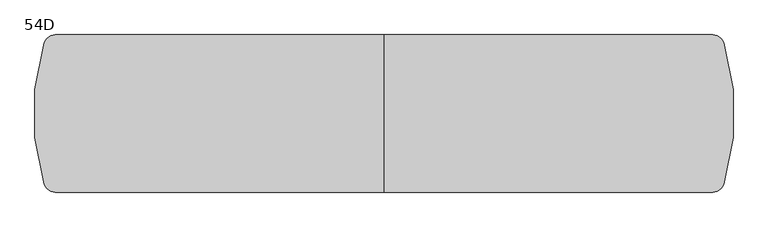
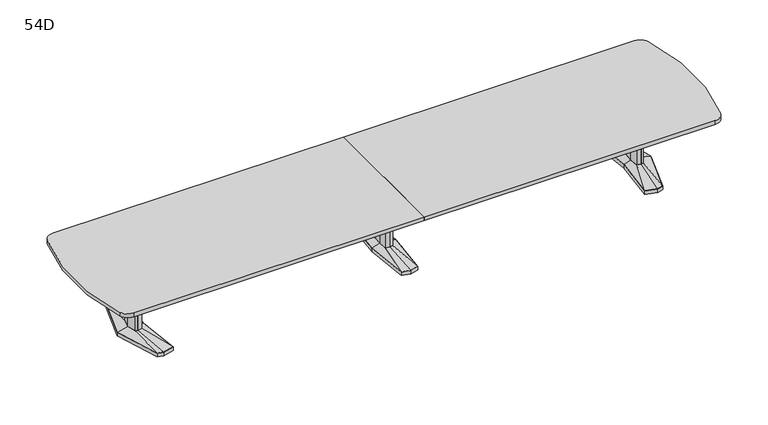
"""IFC4 building model written with IfcOpenShell, lengths in millimetres: furniture geometry, Coalesse_AM_Table_Conference_ETable2_SoftRadiused_20ft_AluminiumBase : 54D."""

from ifc_helpers import new_model, si_unit, point, frame, frame_2d, origin, place, context, project, spatial, polyline, circle_curve, trimmed, segment, composite_curve, outline, extrude, faceted_brep, source, transform, mapped, element, save
from ifc_brep_helpers import plane_surface, spline_surface, advanced_brep


def furniture_54d_68db6f83(model_context):
    return source(origin(), model_context, "Body", "SolidModel", [
        faceted_brep([(-81.2333791, -433.8053819, 38.1), (0.0, -455.556576, 38.1), (81.2333791, -433.8053819, 38.1), (119.0564774, 0.0, 38.1), (81.2333791, 433.8053819, 38.1), (0.0, 455.556576, 38.1), (-81.2333791, 433.8053819, 38.1), (-119.0564774, 0.0, 38.1), (-82.7182795, -435.0512063, 3.175), (-120.65, 0.0, 3.175), (-82.7182795, 435.0512063, 3.175), (0.0, 457.2, 3.175), (82.7182795, 435.0512063, 3.175), (120.65, 0.0, 3.175), (82.7182795, -435.0512063, 3.175), (0.0, -457.2, 3.175), (0.0, 429.2617927, 3.175), (-77.9676806, 408.3850278, 3.175), (-74.7019821, 382.9646737, 3.175), (0.0, 402.9670094, 3.175), (74.7019821, 382.9646737, 3.175), (77.9676806, 408.3850278, 3.175), (0.0, -429.2617927, 3.175), (77.9676806, -408.3850278, 3.175), (74.7019821, -382.9646737, 3.175), (0.0, -402.9670094, 3.175), (-74.7019821, -382.9646737, 3.175), (-77.9676806, -408.3850278, 3.175), (-71.8574262, 114.6326257, 3.175), (-82.5426076, 0.0, 3.175), (-71.8574262, -114.6326257, 3.175), (0.0, -133.8761372, 3.175), (71.8574262, -114.6326257, 3.175), (82.5426076, 0.0, 3.175), (71.8574262, 114.6326257, 3.175), (0.0, 133.8761372, 3.175), (0.0, 429.2617927, 0.0), (77.9676806, 408.3850278, 0.0), (74.7019821, 382.9646737, 0.0), (0.0, 402.9670094, 0.0), (-74.7019821, 382.9646737, 0.0), (-77.9676806, 408.3850278, 0.0), (0.0, -429.2617927, 0.0), (-77.9676806, -408.3850278, 0.0), (-74.7019821, -382.9646737, 0.0), (0.0, -402.9670094, 0.0), (74.7019821, -382.9646737, 0.0), (77.9676806, -408.3850278, 0.0), (-71.8574262, 114.6326257, 0.0), (0.0, 133.8761372, 0.0), (71.8574262, 114.6326257, 0.0), (82.5426076, 0.0, 0.0), (71.8574262, -114.6326257, 0.0), (0.0, -133.8761372, 0.0), (-71.8574262, -114.6326257, 0.0), (-82.5426076, 0.0, 0.0)], [[[0, 1, 2, 3, 4, 5, 6, 7]], [[8, 9, 10, 11, 12, 13, 14, 15], [16, 17, 18, 19, 20, 21], [22, 23, 24, 25, 26, 27], [28, 29, 30, 31, 32, 33, 34, 35]], [[1, 0, 8, 15]], [[2, 1, 15, 14]], [[3, 2, 14, 13]], [[4, 3, 13, 12]], [[5, 4, 12, 11]], [[6, 5, 11, 10]], [[7, 6, 10, 9]], [[0, 7, 9, 8]], [[36, 37, 38, 39, 40, 41]], [[42, 43, 44, 45, 46, 47]], [[48, 49, 50, 51, 52, 53, 54, 55]], [[36, 41, 17, 16]], [[41, 40, 18, 17]], [[40, 39, 19, 18]], [[39, 38, 20, 19]], [[38, 37, 21, 20]], [[37, 36, 16, 21]], [[42, 47, 23, 22]], [[47, 46, 24, 23]], [[46, 45, 25, 24]], [[45, 44, 26, 25]], [[44, 43, 27, 26]], [[43, 42, 22, 27]], [[48, 55, 29, 28]], [[55, 54, 30, 29]], [[54, 53, 31, 30]], [[53, 52, 32, 31]], [[52, 51, 33, 32]], [[51, 50, 34, 33]], [[50, 49, 35, 34]], [[49, 48, 28, 35]]]),
        faceted_brep([(-36.3832834, 84.6900825, 698.5), (-44.2774487, 0.0, 698.5), (-36.3832834, -84.6900825, 698.5), (0.0, -94.4335728, 698.5), (36.3832834, -84.6900825, 698.5), (44.2774487, 0.0, 698.5), (36.3832834, 84.6900825, 698.5), (0.0, 94.4335728, 698.5), (-36.3832834, 84.6900825, 63.5), (0.0, 94.4335728, 63.5), (36.3832834, 84.6900825, 63.5), (44.2774487, 0.0, 63.5), (36.3832834, -84.6900825, 63.5), (0.0, -94.4335728, 63.5), (-36.3832834, -84.6900825, 63.5), (-44.2774487, 0.0, 63.5)], [[[0, 1, 2, 3, 4, 5, 6, 7]], [[8, 9, 10, 11, 12, 13, 14, 15]], [[1, 0, 8, 15]], [[2, 1, 15, 14]], [[3, 2, 14, 13]], [[4, 3, 13, 12]], [[5, 4, 12, 11]], [[6, 5, 11, 10]], [[7, 6, 10, 9]], [[0, 7, 9, 8]]]),
        advanced_brep(
        [(-36.3832834, 84.6900825, 63.5), (-44.2774487, 0.0, 63.5), (-36.3832834, -84.6900825, 63.5), (0.0, -94.4335728, 63.5), (36.3832834, -84.6900825, 63.5), (44.2774487, 0.0, 63.5), (36.3832834, 84.6900825, 63.5), (0.0, 94.4335728, 63.5), (-81.2333791, 433.8053819, 38.1), (0.0, 455.556576, 38.1), (81.2333791, 433.8053819, 38.1), (119.0564774, 0.0, 38.1), (81.2333791, -433.8053819, 38.1), (0.0, -455.556576, 38.1), (-81.2333791, -433.8053819, 38.1), (-119.0564774, 0.0, 38.1)],
        [
            (0, 1),
            (1, 2),
            (2, 3),
            (3, 4),
            (4, 5),
            (5, 6),
            (6, 7),
            (7, 0),
            (8, 9),
            (9, 10),
            (10, 11),
            (11, 12),
            (12, 13),
            (13, 14),
            (14, 15),
            (15, 8),
            (15, 1),
            (0, 8),
            (14, 2),
            (13, 3),
            (12, 4),
            (11, 5),
            (10, 6),
            (9, 7),
        ],
        [
            plane_surface(frame((0.0, 0.0, 63.5), z_axis=(0.0, 0.0, 1.0000000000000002), x_axis=(-0.9659615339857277, -0.25868574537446, 0.0))),
            plane_surface(frame((0.0, 0.0, 38.1), z_axis=(0.0, 0.0, -1.0000000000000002), x_axis=(-0.9659615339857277, -0.25868574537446, 0.0))),
            spline_surface(1, 1, [[(-81.2333791, 433.8053819, 38.1), (-36.3832834, 84.6900825, 63.5)], [(-119.0564774, 0.0, 38.1), (-44.2774487, 0.0, 63.5)]], [2, 2], [2, 2], [0.0, 1.0], [0.0, 1.0]),
            spline_surface(1, 1, [[(-119.0564774, 0.0, 38.1), (-44.2774487, 0.0, 63.5)], [(-81.2333791, -433.8053819, 38.1), (-36.3832834, -84.6900825, 63.5)]], [2, 2], [2, 2], [0.0, 1.0], [0.0, 1.0]),
            spline_surface(1, 1, [[(-81.2333791, -433.8053819, 38.1), (-36.3832834, -84.6900825, 63.5)], [(0.0, -455.556576, 38.1), (0.0, -94.4335728, 63.5)]], [2, 2], [2, 2], [0.0, 1.0], [0.0, 1.0]),
            spline_surface(1, 1, [[(0.0, -455.556576, 38.1), (0.0, -94.4335728, 63.5)], [(81.2333791, -433.8053819, 38.1), (36.3832834, -84.6900825, 63.5)]], [2, 2], [2, 2], [0.0, 1.0], [0.0, 1.0]),
            spline_surface(1, 1, [[(81.2333791, -433.8053819, 38.1), (36.3832834, -84.6900825, 63.5)], [(119.0564774, 0.0, 38.1), (44.2774487, 0.0, 63.5)]], [2, 2], [2, 2], [0.0, 1.0], [0.0, 1.0]),
            spline_surface(1, 1, [[(119.0564774, 0.0, 38.1), (44.2774487, 0.0, 63.5)], [(81.2333791, 433.8053819, 38.1), (36.3832834, 84.6900825, 63.5)]], [2, 2], [2, 2], [0.0, 1.0], [0.0, 1.0]),
            spline_surface(1, 1, [[(81.2333791, 433.8053819, 38.1), (36.3832834, 84.6900825, 63.5)], [(0.0, 455.556576, 38.1), (0.0, 94.4335728, 63.5)]], [2, 2], [2, 2], [0.0, 1.0], [0.0, 1.0]),
            spline_surface(1, 1, [[(0.0, 455.556576, 38.1), (0.0, 94.4335728, 63.5)], [(-81.2333791, 433.8053819, 38.1), (-36.3832834, 84.6900825, 63.5)]], [2, 2], [2, 2], [0.0, 1.0], [0.0, 1.0]),
        ],
        [
            (0, [[1, 2, 3, 4, 5, 6, 7, 8]]),
            (1, [[9, 10, 11, 12, 13, 14, 15, 16]]),
            (2, [[-16, 17, -1, 18]]),
            (3, [[-15, 19, -2, -17]]),
            (4, [[-14, 20, -3, -19]]),
            (5, [[-13, 21, -4, -20]]),
            (6, [[-12, 22, -5, -21]]),
            (7, [[-11, 23, -6, -22]]),
            (8, [[-10, 24, -7, -23]]),
            (9, [[-9, -18, -8, -24]]),
        ],
    ),
        faceted_brep([(2429.8306835, 455.5848221, 38.1), (2320.2531277, 426.2263816, 38.1), (2361.4163717, 0.0, 38.1), (2320.2531277, -426.2263816, 38.1), (2429.8306835, -455.5848221, 38.1), (2485.9570396, -440.5478297, 38.1), (2623.2684269, 0.0, 38.1), (2485.9570396, 440.5478297, 38.1), (2429.8306754, 457.2283104, 3.175), (2487.2124472, 441.8549756, 3.175), (2624.93125, 0.0, 3.175), (2487.2124472, -441.8549756, 3.175), (2429.8306754, -457.2283104, 3.175), (2318.54375, -427.4118891, 3.175), (2359.8214856, 0.0, 3.175), (2318.54375, 427.4118891, 3.175), (2433.420115, 428.3273875, 3.175), (2328.3718228, 402.1057253, 3.175), (2336.490518, 377.985069, 3.175), (2437.0095466, 401.0699529, 3.175), (2487.5691725, 387.524361, 3.175), (2486.7631061, 414.0360954, 3.175), (2433.420115, -428.3273875, 3.175), (2486.7631061, -414.0360954, 3.175), (2487.5691725, -387.524361, 3.175), (2437.0095466, -401.0699529, 3.175), (2336.490518, -377.985069, 3.175), (2328.3718228, -402.1057253, 3.175), (2560.0153621, 0.0, 3.175), (2527.7459611, 120.4193755, 3.175), (2479.0987222, 133.471665, 3.175), (2399.2180526, 119.4176561, 3.175), (2388.0868466, 0.0, 3.175), (2399.2180526, -119.4176561, 3.175), (2479.0987222, -133.471665, 3.175), (2527.7459611, -120.4193755, 3.175), (2433.420115, 428.3273875, 0.0), (2486.7631061, 414.0360954, 0.0), (2487.5691725, 387.524361, 0.0), (2437.0095466, 401.0699529, 0.0), (2336.490518, 377.985069, 0.0), (2328.3718228, 402.1057253, 0.0), (2433.420115, -428.3273875, 0.0), (2328.3718228, -402.1057253, 0.0), (2336.490518, -377.985069, 0.0), (2437.0095466, -401.0699529, 0.0), (2487.5691725, -387.524361, 0.0), (2486.7631061, -414.0360954, 0.0), (2560.0153621, 0.0, 0.0), (2527.7459611, -120.4193755, 0.0), (2479.0987222, -133.471665, 0.0), (2399.2180526, -119.4176561, 0.0), (2388.0868466, 0.0, 0.0), (2399.2180526, 119.4176561, 0.0), (2479.0987222, 133.471665, 0.0), (2527.7459611, 120.4193755, 0.0)], [[[0, 1, 2, 3, 4, 5, 6, 7]], [[8, 9, 10, 11, 12, 13, 14, 15], [16, 17, 18, 19, 20, 21], [22, 23, 24, 25, 26, 27], [28, 29, 30, 31, 32, 33, 34, 35]], [[7, 9, 8, 0]], [[6, 10, 9, 7]], [[5, 11, 10, 6]], [[4, 12, 11, 5]], [[3, 13, 12, 4]], [[2, 14, 13, 3]], [[1, 15, 14, 2]], [[0, 8, 15, 1]], [[36, 37, 38, 39, 40, 41]], [[42, 43, 44, 45, 46, 47]], [[48, 49, 50, 51, 52, 53, 54, 55]], [[36, 16, 21, 37]], [[37, 21, 20, 38]], [[38, 20, 19, 39]], [[39, 19, 18, 40]], [[40, 18, 17, 41]], [[41, 17, 16, 36]], [[42, 22, 27, 43]], [[43, 27, 26, 44]], [[44, 26, 25, 45]], [[45, 25, 24, 46]], [[46, 24, 23, 47]], [[47, 23, 22, 42]], [[48, 28, 35, 49]], [[49, 35, 34, 50]], [[50, 34, 33, 51]], [[51, 33, 32, 52]], [[52, 32, 31, 53]], [[53, 31, 30, 54]], [[54, 30, 29, 55]], [[55, 29, 28, 48]]]),
        faceted_brep([(2520.5710836, 0.0, 698.5), (2496.6358546, 89.3188359, 698.5), (2479.7824984, 93.8406728, 698.5), (2477.3826511, 94.4845635, 698.5), (2434.455146, 86.9320037, 698.5), (2426.3520056, 0.0, 698.5), (2434.455146, -86.9320037, 698.5), (2477.3826511, -94.4845635, 698.5), (2479.7824984, -93.8406728, 698.5), (2496.6358546, -89.3188359, 698.5), (2520.5710836, 0.0, 63.5), (2496.6358546, -89.3188359, 63.5), (2479.7824984, -93.8406728, 63.5), (2477.3826511, -94.4845635, 63.5), (2434.455146, -86.9320037, 63.5), (2426.3520056, 0.0, 63.5), (2434.455146, 86.9320037, 63.5), (2477.3826511, 94.4845635, 63.5), (2479.7824984, 93.8406728, 63.5), (2496.6358546, 89.3188359, 63.5)], [[[0, 1, 2, 3, 4, 5, 6, 7, 8, 9]], [[10, 11, 12, 13, 14, 15, 16, 17, 18, 19]], [[9, 11, 10, 0]], [[8, 12, 11, 9]], [[7, 13, 12, 8]], [[6, 14, 13, 7]], [[5, 15, 14, 6]], [[4, 16, 15, 5]], [[3, 17, 16, 4]], [[2, 18, 17, 3]], [[1, 19, 18, 2]], [[0, 10, 19, 1]]]),
        advanced_brep(
        [(2477.3826511, 94.4845635, 63.5), (2434.455146, 86.9320037, 63.5), (2426.3520056, 0.0, 63.5), (2434.455146, -86.9320037, 63.5), (2477.3826511, -94.4845635, 63.5), (2496.6358546, -89.3188359, 63.5), (2520.5710836, 0.0, 63.5), (2496.6358546, 89.3188359, 63.5), (2429.8306835, 455.5848221, 38.1), (2485.9570396, 440.5478297, 38.1), (2623.2684269, 0.0, 38.1), (2485.9570396, -440.5478297, 38.1), (2429.8306835, -455.5848221, 38.1), (2320.2531277, -426.2263816, 38.1), (2361.4163717, 0.0, 38.1), (2320.2531277, 426.2263816, 38.1)],
        [
            (0, 1),
            (1, 2),
            (2, 3),
            (3, 4),
            (4, 5),
            (5, 6),
            (6, 7),
            (7, 0),
            (8, 9),
            (9, 10),
            (10, 11),
            (11, 12),
            (12, 13),
            (13, 14),
            (14, 15),
            (15, 8),
            (8, 0),
            (7, 9),
            (6, 10),
            (5, 11),
            (4, 12),
            (3, 13),
            (2, 14),
            (1, 15),
        ],
        [
            plane_surface(frame((2470.4837991, 0.0, 63.5), z_axis=(0.0, 0.0, 1.0), x_axis=(-0.25884244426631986, -0.9659195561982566, 0.0))),
            plane_surface(frame((2432.0958125, 0.0, 38.1), z_axis=(0.0, 0.0, -1.0), x_axis=(-0.25884244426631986, -0.9659195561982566, 0.0))),
            spline_surface(1, 1, [[(2429.8306835, 455.5848221, 38.1), (2485.9570396, 440.5478297, 38.1)], [(2477.3826511, 94.4845635, 63.5), (2496.6358546, 89.3188359, 63.5)]], [2, 2], [2, 2], [0.0, 1.0], [0.0, 1.0]),
            spline_surface(1, 1, [[(2485.9570396, 440.5478297, 38.1), (2623.2684269, 0.0, 38.1)], [(2496.6358546, 89.3188359, 63.5), (2520.5710836, 0.0, 63.5)]], [2, 2], [2, 2], [0.0, 1.0], [0.0, 1.0]),
            spline_surface(1, 1, [[(2623.2684269, 0.0, 38.1), (2485.9570396, -440.5478297, 38.1)], [(2520.5710836, 0.0, 63.5), (2496.6358546, -89.3188359, 63.5)]], [2, 2], [2, 2], [0.0, 1.0], [0.0, 1.0]),
            spline_surface(1, 1, [[(2485.9570396, -440.5478297, 38.1), (2429.8306835, -455.5848221, 38.1)], [(2496.6358546, -89.3188359, 63.5), (2477.3826511, -94.4845635, 63.5)]], [2, 2], [2, 2], [0.0, 1.0], [0.0, 1.0]),
            spline_surface(1, 1, [[(2429.8306835, -455.5848221, 38.1), (2320.2531277, -426.2263816, 38.1)], [(2477.3826511, -94.4845635, 63.5), (2434.455146, -86.9320037, 63.5)]], [2, 2], [2, 2], [0.0, 1.0], [0.0, 1.0]),
            spline_surface(1, 1, [[(2320.2531277, -426.2263816, 38.1), (2361.4163717, 0.0, 38.1)], [(2434.455146, -86.9320037, 63.5), (2426.3520056, 0.0, 63.5)]], [2, 2], [2, 2], [0.0, 1.0], [0.0, 1.0]),
            spline_surface(1, 1, [[(2361.4163717, 0.0, 38.1), (2320.2531277, 426.2263816, 38.1)], [(2426.3520056, 0.0, 63.5), (2434.455146, 86.9320037, 63.5)]], [2, 2], [2, 2], [0.0, 1.0], [0.0, 1.0]),
            spline_surface(1, 1, [[(2320.2531277, 426.2263816, 38.1), (2429.8306835, 455.5848221, 38.1)], [(2434.455146, 86.9320037, 63.5), (2477.3826511, 94.4845635, 63.5)]], [2, 2], [2, 2], [0.0, 1.0], [0.0, 1.0]),
        ],
        [
            (0, [[1, 2, 3, 4, 5, 6, 7, 8]]),
            (1, [[9, 10, 11, 12, 13, 14, 15, 16]]),
            (2, [[17, -8, 18, -9]]),
            (3, [[-18, -7, 19, -10]]),
            (4, [[-19, -6, 20, -11]]),
            (5, [[-20, -5, 21, -12]]),
            (6, [[-21, -4, 22, -13]]),
            (7, [[-22, -3, 23, -14]]),
            (8, [[-23, -2, 24, -15]]),
            (9, [[-24, -1, -17, -16]]),
        ],
    ),
        faceted_brep([(-2429.8306835, 455.5848221, 38.1), (-2485.9570396, 440.5478297, 38.1), (-2623.2684269, 0.0, 38.1), (-2485.9570396, -440.5478297, 38.1), (-2429.8306835, -455.5848221, 38.1), (-2320.2531277, -426.2263816, 38.1), (-2361.4163717, 0.0, 38.1), (-2320.2531277, 426.2263816, 38.1), (-2429.8306754, 457.2283104, 3.175), (-2318.54375, 427.4118891, 3.175), (-2359.8214856, 0.0, 3.175), (-2318.54375, -427.4118891, 3.175), (-2429.8306754, -457.2283104, 3.175), (-2487.2124472, -441.8549756, 3.175), (-2624.93125, 0.0, 3.175), (-2487.2124472, 441.8549756, 3.175), (-2433.420115, 428.3273875, 3.175), (-2486.7631061, 414.0360954, 3.175), (-2487.5691725, 387.524361, 3.175), (-2437.0095466, 401.0699529, 3.175), (-2336.490518, 377.985069, 3.175), (-2328.3718228, 402.1057253, 3.175), (-2433.420115, -428.3273875, 3.175), (-2328.3718228, -402.1057253, 3.175), (-2336.490518, -377.985069, 3.175), (-2437.0095466, -401.0699529, 3.175), (-2487.5691725, -387.524361, 3.175), (-2486.7631061, -414.0360954, 3.175), (-2560.0153621, 0.0, 3.175), (-2527.7459611, -120.4193755, 3.175), (-2479.0987222, -133.471665, 3.175), (-2399.2180526, -119.4176561, 3.175), (-2388.0868466, 0.0, 3.175), (-2399.2180526, 119.4176561, 3.175), (-2479.0987222, 133.471665, 3.175), (-2527.7459611, 120.4193755, 3.175), (-2433.420115, 428.3273875, 0.0), (-2328.3718228, 402.1057253, 0.0), (-2336.490518, 377.985069, 0.0), (-2437.0095466, 401.0699529, 0.0), (-2487.5691725, 387.524361, 0.0), (-2486.7631061, 414.0360954, 0.0), (-2433.420115, -428.3273875, 0.0), (-2486.7631061, -414.0360954, 0.0), (-2487.5691725, -387.524361, 0.0), (-2437.0095466, -401.0699529, 0.0), (-2336.490518, -377.985069, 0.0), (-2328.3718228, -402.1057253, 0.0), (-2560.0153621, 0.0, 0.0), (-2527.7459611, 120.4193755, 0.0), (-2479.0987222, 133.471665, 0.0), (-2399.2180526, 119.4176561, 0.0), (-2388.0868466, 0.0, 0.0), (-2399.2180526, -119.4176561, 0.0), (-2479.0987222, -133.471665, 0.0), (-2527.7459611, -120.4193755, 0.0)], [[[0, 1, 2, 3, 4, 5, 6, 7]], [[8, 9, 10, 11, 12, 13, 14, 15], [16, 17, 18, 19, 20, 21], [22, 23, 24, 25, 26, 27], [28, 29, 30, 31, 32, 33, 34, 35]], [[1, 0, 8, 15]], [[2, 1, 15, 14]], [[3, 2, 14, 13]], [[4, 3, 13, 12]], [[5, 4, 12, 11]], [[6, 5, 11, 10]], [[7, 6, 10, 9]], [[0, 7, 9, 8]], [[36, 37, 38, 39, 40, 41]], [[42, 43, 44, 45, 46, 47]], [[48, 49, 50, 51, 52, 53, 54, 55]], [[36, 41, 17, 16]], [[41, 40, 18, 17]], [[40, 39, 19, 18]], [[39, 38, 20, 19]], [[38, 37, 21, 20]], [[37, 36, 16, 21]], [[42, 47, 23, 22]], [[47, 46, 24, 23]], [[46, 45, 25, 24]], [[45, 44, 26, 25]], [[44, 43, 27, 26]], [[43, 42, 22, 27]], [[48, 55, 29, 28]], [[55, 54, 30, 29]], [[54, 53, 31, 30]], [[53, 52, 32, 31]], [[52, 51, 33, 32]], [[51, 50, 34, 33]], [[50, 49, 35, 34]], [[49, 48, 28, 35]]]),
        faceted_brep([(-2520.5710836, 0.0, 698.5), (-2496.6358546, -89.3188359, 698.5), (-2479.7824984, -93.8406728, 698.5), (-2477.3826511, -94.4845635, 698.5), (-2434.455146, -86.9320037, 698.5), (-2426.3520056, 0.0, 698.5), (-2434.455146, 86.9320037, 698.5), (-2477.3826511, 94.4845635, 698.5), (-2479.7824984, 93.8406728, 698.5), (-2496.6358546, 89.3188359, 698.5), (-2520.5710836, 0.0, 63.5), (-2496.6358546, 89.3188359, 63.5), (-2479.7824984, 93.8406728, 63.5), (-2477.3826511, 94.4845635, 63.5), (-2434.455146, 86.9320037, 63.5), (-2426.3520056, 0.0, 63.5), (-2434.455146, -86.9320037, 63.5), (-2477.3826511, -94.4845635, 63.5), (-2479.7824984, -93.8406728, 63.5), (-2496.6358546, -89.3188359, 63.5)], [[[0, 1, 2, 3, 4, 5, 6, 7, 8, 9]], [[10, 11, 12, 13, 14, 15, 16, 17, 18, 19]], [[1, 0, 10, 19]], [[2, 1, 19, 18]], [[3, 2, 18, 17]], [[4, 3, 17, 16]], [[5, 4, 16, 15]], [[6, 5, 15, 14]], [[7, 6, 14, 13]], [[8, 7, 13, 12]], [[9, 8, 12, 11]], [[0, 9, 11, 10]]]),
        advanced_brep(
        [(-2477.3826511, 94.4845635, 63.5), (-2496.6358546, 89.3188359, 63.5), (-2520.5710836, 0.0, 63.5), (-2496.6358546, -89.3188359, 63.5), (-2477.3826511, -94.4845635, 63.5), (-2434.455146, -86.9320037, 63.5), (-2426.3520056, 0.0, 63.5), (-2434.455146, 86.9320037, 63.5), (-2429.8306835, 455.5848221, 38.1), (-2320.2531277, 426.2263816, 38.1), (-2361.4163717, 0.0, 38.1), (-2320.2531277, -426.2263816, 38.1), (-2429.8306835, -455.5848221, 38.1), (-2485.9570396, -440.5478297, 38.1), (-2623.2684269, 0.0, 38.1), (-2485.9570396, 440.5478297, 38.1)],
        [
            (0, 1),
            (1, 2),
            (2, 3),
            (3, 4),
            (4, 5),
            (5, 6),
            (6, 7),
            (7, 0),
            (8, 9),
            (9, 10),
            (10, 11),
            (11, 12),
            (12, 13),
            (13, 14),
            (14, 15),
            (15, 8),
            (15, 1),
            (0, 8),
            (14, 2),
            (13, 3),
            (12, 4),
            (11, 5),
            (10, 6),
            (9, 7),
        ],
        [
            plane_surface(frame((-2470.4837991, 0.0, 63.5), z_axis=(0.0, 0.0, 1.0), x_axis=(0.25884244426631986, -0.9659195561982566, 0.0))),
            plane_surface(frame((-2432.0958125, 0.0, 38.1), z_axis=(0.0, 0.0, -1.0), x_axis=(0.25884244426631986, -0.9659195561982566, 0.0))),
            spline_surface(1, 1, [[(-2429.8306835, 455.5848221, 38.1), (-2477.3826511, 94.4845635, 63.5)], [(-2485.9570396, 440.5478297, 38.1), (-2496.6358546, 89.3188359, 63.5)]], [2, 2], [2, 2], [0.0, 1.0], [0.0, 1.0]),
            spline_surface(1, 1, [[(-2485.9570396, 440.5478297, 38.1), (-2496.6358546, 89.3188359, 63.5)], [(-2623.2684269, 0.0, 38.1), (-2520.5710836, 0.0, 63.5)]], [2, 2], [2, 2], [0.0, 1.0], [0.0, 1.0]),
            spline_surface(1, 1, [[(-2623.2684269, 0.0, 38.1), (-2520.5710836, 0.0, 63.5)], [(-2485.9570396, -440.5478297, 38.1), (-2496.6358546, -89.3188359, 63.5)]], [2, 2], [2, 2], [0.0, 1.0], [0.0, 1.0]),
            spline_surface(1, 1, [[(-2485.9570396, -440.5478297, 38.1), (-2496.6358546, -89.3188359, 63.5)], [(-2429.8306835, -455.5848221, 38.1), (-2477.3826511, -94.4845635, 63.5)]], [2, 2], [2, 2], [0.0, 1.0], [0.0, 1.0]),
            spline_surface(1, 1, [[(-2429.8306835, -455.5848221, 38.1), (-2477.3826511, -94.4845635, 63.5)], [(-2320.2531277, -426.2263816, 38.1), (-2434.455146, -86.9320037, 63.5)]], [2, 2], [2, 2], [0.0, 1.0], [0.0, 1.0]),
            spline_surface(1, 1, [[(-2320.2531277, -426.2263816, 38.1), (-2434.455146, -86.9320037, 63.5)], [(-2361.4163717, 0.0, 38.1), (-2426.3520056, 0.0, 63.5)]], [2, 2], [2, 2], [0.0, 1.0], [0.0, 1.0]),
            spline_surface(1, 1, [[(-2361.4163717, 0.0, 38.1), (-2426.3520056, 0.0, 63.5)], [(-2320.2531277, 426.2263816, 38.1), (-2434.455146, 86.9320037, 63.5)]], [2, 2], [2, 2], [0.0, 1.0], [0.0, 1.0]),
            spline_surface(1, 1, [[(-2320.2531277, 426.2263816, 38.1), (-2434.455146, 86.9320037, 63.5)], [(-2429.8306835, 455.5848221, 38.1), (-2477.3826511, 94.4845635, 63.5)]], [2, 2], [2, 2], [0.0, 1.0], [0.0, 1.0]),
        ],
        [
            (0, [[1, 2, 3, 4, 5, 6, 7, 8]]),
            (1, [[9, 10, 11, 12, 13, 14, 15, 16]]),
            (2, [[-16, 17, -1, 18]]),
            (3, [[-15, 19, -2, -17]]),
            (4, [[-14, 20, -3, -19]]),
            (5, [[-13, 21, -4, -20]]),
            (6, [[-12, 22, -5, -21]]),
            (7, [[-11, 23, -6, -22]]),
            (8, [[-10, 24, -7, -23]]),
            (9, [[-9, -18, -8, -24]]),
        ],
    ),
        extrude(outline(polyline([(96.8375, 698.5), (103.1875, 698.5), (103.1875, 476.25), (-103.1875, 476.25), (-103.1875, 698.5), (-96.8375, 698.5), (-96.8375, 482.6), (96.8375, 482.6), (96.8375, 698.5)])), frame((44.2774487, 0.0, 0.0), z_axis=(1.0, 0.0, 0.0), x_axis=(0.0, 1.0, 0.0)), (0.0, 0.0, 1.0), 2382.2163013),
        extrude(outline(composite_curve([segment(trimmed(circle_curve(frame_2d((2858.8557965, 584.2)), 101.6), [point((2858.8557965, 685.8))], [point((2954.6453259, 618.0662966))], False, "CARTESIAN"), True, "CONTINUOUS"), segment(trimmed(circle_curve(frame_2d((955.9773207, 0.0)), 2092.051563), [point((2954.6453259, 618.0662966))], [point((2954.6453259, -618.0662966))], False, "CARTESIAN"), True, "CONTINUOUS"), segment(trimmed(circle_curve(frame_2d((2858.8557965, -584.2)), 101.6), [point((2954.6453259, -618.0662966))], [point((2858.8557965, -685.8))], False, "CARTESIAN"), True, "CONTINUOUS"), segment(polyline([(2858.8557965, -685.8), (0.0, -685.8), (0.0, 685.8), (2858.8557965, 685.8)]), True, "CONTINUOUS")], self_intersect=False)), frame((0.0, 0.0, 698.5), z_axis=(0.0, 0.0, 1.0), x_axis=(1.0, 0.0, 0.0)), (0.0, 0.0, 1.0), 38.1),
        extrude(outline(composite_curve([segment(polyline([(-2858.8557965, 685.8), (0.0, 685.8), (0.0, -685.8), (-2858.8557965, -685.8)]), True, "CONTINUOUS"), segment(trimmed(circle_curve(frame_2d((-2858.8557965, -584.2)), 101.6), [point((-2858.8557965, -685.8))], [point((-2954.6453259, -618.0662966))], False, "CARTESIAN"), True, "CONTINUOUS"), segment(polyline([(-2954.6453259, -618.0662966), (-2955.3956256, -615.9441026)]), True, "CONTINUOUS"), segment(trimmed(circle_curve(frame_2d((-953.2679193, 0.0)), 2094.7320807), [point((-2955.3956256, -615.9441026))], [point((-2955.3956256, 615.9441026))], False, "CARTESIAN"), True, "CONTINUOUS"), segment(polyline([(-2955.3956256, 615.9441026), (-2954.6453259, 618.0662966)]), True, "CONTINUOUS"), segment(trimmed(circle_curve(frame_2d((-2858.8557965, 584.2)), 101.6), [point((-2954.6453259, 618.0662966))], [point((-2858.8557965, 685.8))], False, "CARTESIAN"), True, "CONTINUOUS")], self_intersect=False)), frame((0.0, 0.0, 698.5), z_axis=(0.0, 0.0, 1.0), x_axis=(1.0, 0.0, 0.0)), (0.0, 0.0, 1.0), 38.1),
        extrude(outline(polyline([(96.8375, 698.5), (103.1875, 698.5), (103.1875, 476.25), (-103.1875, 476.25), (-103.1875, 698.5), (-96.8375, 698.5), (-96.8375, 482.6), (96.8375, 482.6), (96.8375, 698.5)])), frame((-2426.49375, 0.0, 0.0), z_axis=(1.0, 0.0, 0.0), x_axis=(0.0, 1.0, 0.0)), (0.0, 0.0, 1.0), 2382.2163013),
    ])


if __name__ == "__main__":
    model = new_model("IFC4")
    model_context = context("Model", 3, world=origin())
    ifc_project = project(units=[si_unit("LENGTHUNIT", "METRE", prefix="MILLI")], contexts=[model_context])
    site = spatial("IfcSite", under=ifc_project)
    building = spatial("IfcBuilding", under=site)
    placement = place(None, origin())
    furniture_54d_shape = furniture_54d_68db6f83(model_context)
    element("IfcFurniture", 1, ObjectType="Coalesse_AM_Table_Conference_ETable2_SoftRadiused_20ft_AluminiumBase : 54D", at=placement, inside=building, context=model_context, shape_type="MappedRepresentation", body=[
        mapped(furniture_54d_shape, transform((0.0, 0.0, 0.0), x_axis=(1.0, 0.0, 0.0), y_axis=(0.0, 1.0, 0.0), z_axis=(0.0, 0.0, 1.0))),
    ])
    save(model, "model.ifc")
